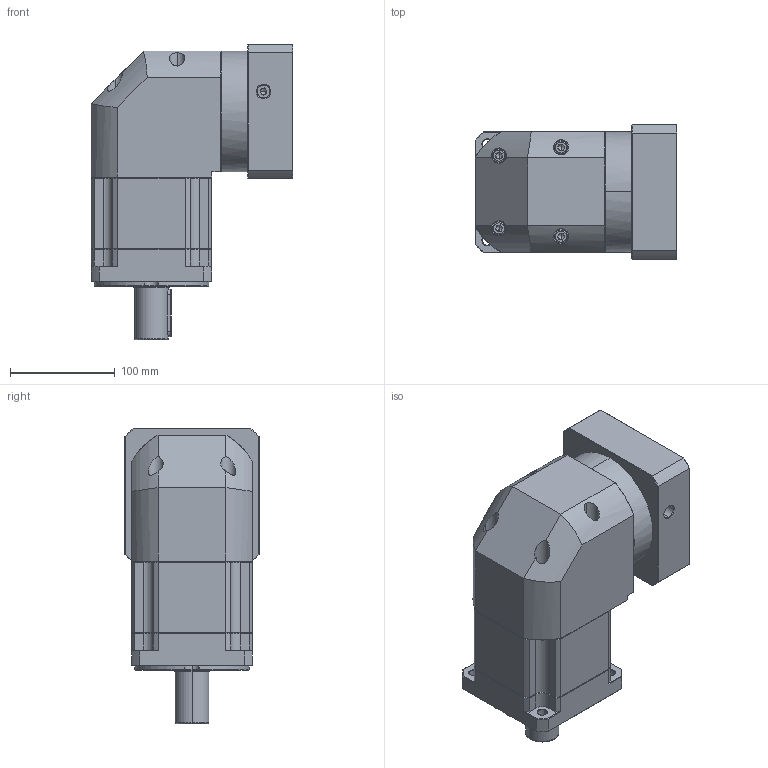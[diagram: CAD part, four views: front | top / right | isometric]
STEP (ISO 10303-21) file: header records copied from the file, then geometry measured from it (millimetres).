
FILE_DESCRIPTION (( 'STEP AP214' ), '1' );
FILE_NAME ('ZBR115A-D32-L2-P2-19-110-145-M8.step', '2023-08-26T12:37:43', ( '' ), ( '' ), 'SwSTEP 2.0', 'SolidWorks 2016', '' );
FILE_SCHEMA (( 'AUTOMOTIVE_DESIGN' ));
Length unit declared in the file: millimetre
Products named in the file (1): ZBR115A-D32-L2-P2-19-110-145-M8
Bounding box: 192.4 x 128 x 281.5 mm (x, y, z)
Volume: 3387984.6 mm3; surface area: 271674.5 mm2
Topology: 6 solids, 6 shells, 2380 faces, 6226 edges, 3950 vertices
Faces by surface type: plane 1139, cylinder 439, bspline 425, cone 369, torus 8
Entity records: 128293 total; most frequent: CARTESIAN_POINT 47227, ORIENTED_EDGE 12392, DIRECTION 9766, EDGE_CURVE 6196, VECTOR 3990, LINE 3990, VERTEX_POINT 3950, AXIS2_PLACEMENT_3D 2888
